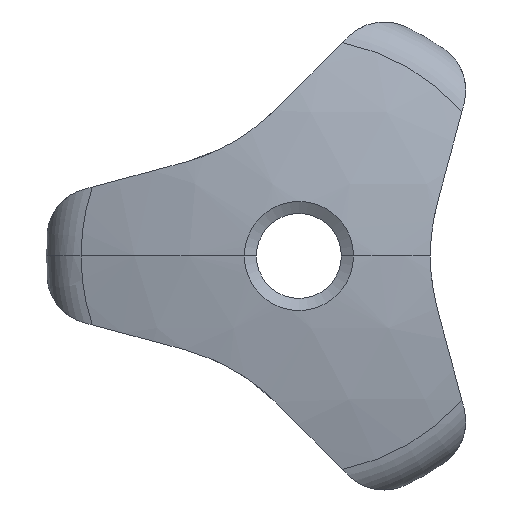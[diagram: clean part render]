
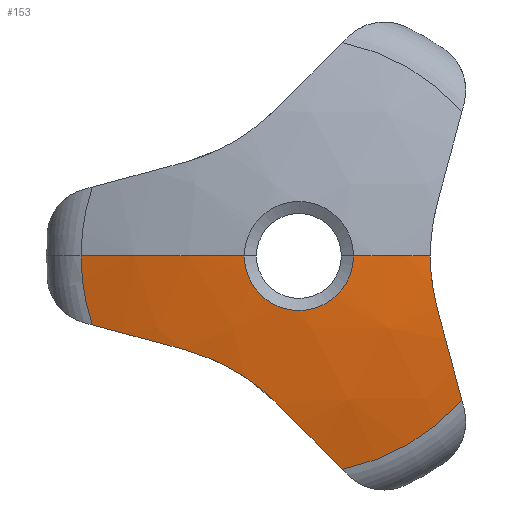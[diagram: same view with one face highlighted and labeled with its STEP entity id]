
A CAD part, left-side view. The second image highlights one B-rep face of the part: STEP entity #153.
In plain terms, the highlighted spherical face has radius 35 mm.
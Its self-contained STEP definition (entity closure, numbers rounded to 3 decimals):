
#1 = CARTESIAN_POINT ( 'NONE',  ( 19., 4.199, -4.199 ) ) ;
#5 = CARTESIAN_POINT ( 'NONE',  ( -15.336, 4.817, -4.857 ) ) ;
#12 = AXIS2_PLACEMENT_3D ( 'NONE', #572, #1507, #455 ) ;
#21 = CARTESIAN_POINT ( 'NONE',  ( -14.302, 0., 0. ) ) ;
#70 = VERTEX_POINT ( 'NONE', #788 ) ;
#79 = CIRCLE ( 'NONE', #797, 35. ) ;
#98 = EDGE_CURVE ( 'NONE', #648, #768, #900, .T. ) ;
#112 = CARTESIAN_POINT ( 'NONE',  ( -15.323, 1.816, -6.621 ) ) ;
#150 = CARTESIAN_POINT ( 'NONE',  ( -14.302, 10.215, -3.41 ) ) ;
#153 = ADVANCED_FACE ( 'NONE', ( #448 ), #1161, .T. ) ;
#190 = ORIENTED_EDGE ( 'NONE', *, *, #285, .T. ) ;
#195 = CARTESIAN_POINT ( 'NONE',  ( -15.391, -6.5, -0.878 ) ) ;
#208 = DIRECTION ( 'NONE',  ( 0., 0.966, 0.259 ) ) ;
#216 = CARTESIAN_POINT ( 'NONE',  ( -15.391, -6.5, 0. ) ) ;
#224 = CARTESIAN_POINT ( 'NONE',  ( -14.302, 0., 0. ) ) ;
#247 = EDGE_CURVE ( 'NONE', #1180, #907, #1260, .T. ) ;
#285 = EDGE_CURVE ( 'NONE', #354, #648, #1012, .T. ) ;
#300 = AXIS2_PLACEMENT_3D ( 'NONE', #380, #854, #1210 ) ;
#330 = CARTESIAN_POINT ( 'NONE',  ( 19., 1.537, -5.735 ) ) ;
#340 = CARTESIAN_POINT ( 'NONE',  ( -15.282, 1.488, -6.909 ) ) ;
#344 = CARTESIAN_POINT ( 'NONE',  ( -15.896, 2.7, 0. ) ) ;
#354 = VERTEX_POINT ( 'NONE', #984 ) ;
#380 = CARTESIAN_POINT ( 'NONE',  ( 19., 0., 0. ) ) ;
#438 = DIRECTION ( 'NONE',  ( 0., 1., 0. ) ) ;
#448 = FACE_OUTER_BOUND ( 'NONE', #976, .T. ) ;
#455 = DIRECTION ( 'NONE',  ( 0., 1., 0. ) ) ;
#489 = EDGE_CURVE ( 'NONE', #354, #907, #823, .T. ) ;
#492 = ORIENTED_EDGE ( 'NONE', *, *, #1224, .F. ) ;
#501 = CARTESIAN_POINT ( 'NONE',  ( -15.391, -6.5, 0. ) ) ;
#503 = CARTESIAN_POINT ( 'NONE',  ( -15.227, 1.179, -7.218 ) ) ;
#522 = ORIENTED_EDGE ( 'NONE', *, *, #1217, .F. ) ;
#531 = DIRECTION ( 'NONE',  ( 0., -1., 0. ) ) ;
#572 = CARTESIAN_POINT ( 'NONE',  ( 19., 0., 0. ) ) ;
#585 = CARTESIAN_POINT ( 'NONE',  ( -15.227, 1.179, -7.218 ) ) ;
#591 = CARTESIAN_POINT ( 'NONE',  ( -15.391, 2.878, -5.844 ) ) ;
#595 = AXIS2_PLACEMENT_3D ( 'NONE', #878, #1213, #631 ) ;
#600 = CIRCLE ( 'NONE', #918, 10.769 ) ;
#631 = DIRECTION ( 'NONE',  ( 0., -0.259, -0.966 ) ) ;
#643 = CARTESIAN_POINT ( 'NONE',  ( 19., 0., 0. ) ) ;
#648 = VERTEX_POINT ( 'NONE', #1176 ) ;
#663 = CARTESIAN_POINT ( 'NONE',  ( -15.896, 0., 0. ) ) ;
#671 = DIRECTION ( 'NONE',  ( 0., 1., 0. ) ) ;
#729 = CIRCLE ( 'NONE', #1357, 34.493 ) ;
#734 = CARTESIAN_POINT ( 'NONE',  ( -15.896, -2.7, 0. ) ) ;
#757 = DIRECTION ( 'NONE',  ( 0., 0., 1. ) ) ;
#768 = VERTEX_POINT ( 'NONE', #501 ) ;
#786 = B_SPLINE_CURVE_WITH_KNOTS ( 'NONE', 3,
 ( #1151, #5, #832, #591, #1168, #112, #340, #585 ),
 .UNSPECIFIED., .F., .F.,
 ( 4, 2, 2, 4 ),
 ( 0., 0.003, 0.004, 0.005 ),
 .UNSPECIFIED. ) ;
#787 = EDGE_CURVE ( 'NONE', #1411, #1109, #1500, .T. ) ;
#788 = CARTESIAN_POINT ( 'NONE',  ( -15.227, 5.662, -4.63 ) ) ;
#791 = DIRECTION ( 'NONE',  ( 0., -0.259, 0.966 ) ) ;
#797 = AXIS2_PLACEMENT_3D ( 'NONE', #643, #757, #531 ) ;
#801 = ORIENTED_EDGE ( 'NONE', *, *, #880, .F. ) ;
#823 = CIRCLE ( 'NONE', #1497, 10.769 ) ;
#832 = CARTESIAN_POINT ( 'NONE',  ( -15.391, 4.015, -5.188 ) ) ;
#839 = ORIENTED_EDGE ( 'NONE', *, *, #787, .T. ) ;
#854 = DIRECTION ( 'NONE',  ( 0., 0., -1. ) ) ;
#878 = CARTESIAN_POINT ( 'NONE',  ( 19., -5.735, 1.537 ) ) ;
#880 = EDGE_CURVE ( 'NONE', #1132, #1109, #600, .T. ) ;
#887 = ORIENTED_EDGE ( 'NONE', *, *, #489, .F. ) ;
#900 = B_SPLINE_CURVE_WITH_KNOTS ( 'NONE', 3,
 ( #924, #1146, #195, #216 ),
 .UNSPECIFIED., .F., .F.,
 ( 4, 4 ),
 ( 0., 0.003 ),
 .UNSPECIFIED. ) ;
#907 = VERTEX_POINT ( 'NONE', #1255 ) ;
#918 = AXIS2_PLACEMENT_3D ( 'NONE', #21, #1087, #1434 ) ;
#924 = CARTESIAN_POINT ( 'NONE',  ( -15.227, -6.841, -2.588 ) ) ;
#976 = EDGE_LOOP ( 'NONE', ( #522, #492, #839, #801, #1448, #1105, #1163, #887, #190, #1340 ) ) ;
#984 = CARTESIAN_POINT ( 'NONE',  ( -14.302, -8.061, -7.141 ) ) ;
#991 = EDGE_CURVE ( 'NONE', #1132, #70, #729, .T. ) ;
#1012 = CIRCLE ( 'NONE', #595, 34.493 ) ;
#1062 = DIRECTION ( 'NONE',  ( 0., 0.707, 0.707 ) ) ;
#1064 = EDGE_CURVE ( 'NONE', #70, #1180, #786, .T. ) ;
#1072 = CIRCLE ( 'NONE', #1318, 2.7 ) ;
#1087 = DIRECTION ( 'NONE',  ( 1., 0., 0. ) ) ;
#1105 = ORIENTED_EDGE ( 'NONE', *, *, #1064, .T. ) ;
#1109 = VERTEX_POINT ( 'NONE', #1200 ) ;
#1132 = VERTEX_POINT ( 'NONE', #150 ) ;
#1146 = CARTESIAN_POINT ( 'NONE',  ( -15.337, -6.614, -1.741 ) ) ;
#1151 = CARTESIAN_POINT ( 'NONE',  ( -15.227, 5.662, -4.63 ) ) ;
#1156 = VERTEX_POINT ( 'NONE', #734 ) ;
#1161 = SPHERICAL_SURFACE ( 'NONE', #12, 35. ) ;
#1163 = ORIENTED_EDGE ( 'NONE', *, *, #247, .T. ) ;
#1168 = CARTESIAN_POINT ( 'NONE',  ( -15.377, 2.509, -6.09 ) ) ;
#1176 = CARTESIAN_POINT ( 'NONE',  ( -15.227, -6.841, -2.588 ) ) ;
#1180 = VERTEX_POINT ( 'NONE', #503 ) ;
#1193 = DIRECTION ( 'NONE',  ( 0., -0.707, 0.707 ) ) ;
#1200 = CARTESIAN_POINT ( 'NONE',  ( -14.302, 10.769, 0. ) ) ;
#1210 = DIRECTION ( 'NONE',  ( -1., 0., 0. ) ) ;
#1213 = DIRECTION ( 'NONE',  ( 0., 0.966, -0.259 ) ) ;
#1217 = EDGE_CURVE ( 'NONE', #1156, #768, #79, .T. ) ;
#1224 = EDGE_CURVE ( 'NONE', #1411, #1156, #1072, .T. ) ;
#1228 = DIRECTION ( 'NONE',  ( -1., 0., 0. ) ) ;
#1255 = CARTESIAN_POINT ( 'NONE',  ( -14.302, -2.154, -10.552 ) ) ;
#1260 = CIRCLE ( 'NONE', #1335, 34.493 ) ;
#1318 = AXIS2_PLACEMENT_3D ( 'NONE', #663, #1228, #671 ) ;
#1335 = AXIS2_PLACEMENT_3D ( 'NONE', #1, #1193, #1062 ) ;
#1340 = ORIENTED_EDGE ( 'NONE', *, *, #98, .T. ) ;
#1357 = AXIS2_PLACEMENT_3D ( 'NONE', #330, #791, #208 ) ;
#1411 = VERTEX_POINT ( 'NONE', #344 ) ;
#1434 = DIRECTION ( 'NONE',  ( 0., 1., 0. ) ) ;
#1448 = ORIENTED_EDGE ( 'NONE', *, *, #991, .T. ) ;
#1488 = DIRECTION ( 'NONE',  ( 1., 0., 0. ) ) ;
#1497 = AXIS2_PLACEMENT_3D ( 'NONE', #224, #1488, #438 ) ;
#1500 = CIRCLE ( 'NONE', #300, 35. ) ;
#1507 = DIRECTION ( 'NONE',  ( 0., 0., 1. ) ) ;
